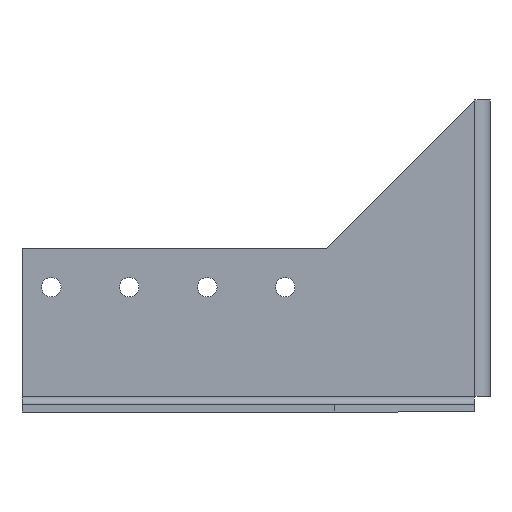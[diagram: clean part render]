
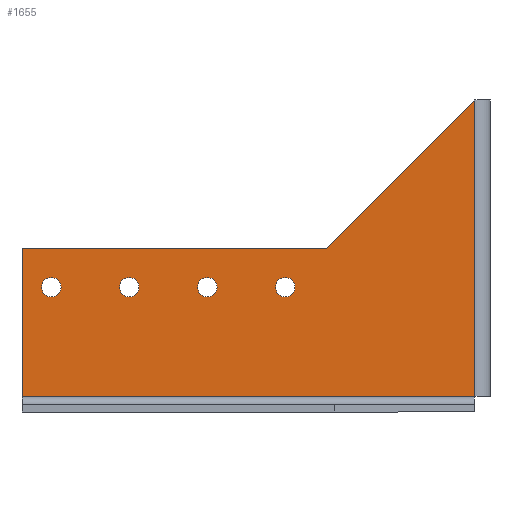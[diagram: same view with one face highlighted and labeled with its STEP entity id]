
A CAD part, left-side view. The second image highlights one B-rep face of the part: STEP entity #1655.
In plain terms, the highlighted planar face has unit normal (-1, 0, 0).
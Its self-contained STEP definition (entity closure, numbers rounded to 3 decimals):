
#81 = VERTEX_POINT ( 'NONE', #911 ) ;
#87 = EDGE_CURVE ( 'NONE', #840, #1079, #1135, .T. ) ;
#91 = CARTESIAN_POINT ( 'NONE',  ( -2., 73., -48. ) ) ;
#93 = VERTEX_POINT ( 'NONE', #1822 ) ;
#140 = CARTESIAN_POINT ( 'NONE',  ( -2., 93., -48. ) ) ;
#162 = CIRCLE ( 'NONE', #1760, 2.5 ) ;
#200 = CIRCLE ( 'NONE', #2806, 2.5 ) ;
#205 = EDGE_CURVE ( 'NONE', #1079, #2985, #1901, .T. ) ;
#218 = CARTESIAN_POINT ( 'NONE',  ( -2., 50.5, -48. ) ) ;
#236 = CARTESIAN_POINT ( 'NONE',  ( -2., 110.5, -48. ) ) ;
#297 = ORIENTED_EDGE ( 'NONE', *, *, #1251, .T. ) ;
#330 = VECTOR ( 'NONE', #3596, 1000. ) ;
#366 = CARTESIAN_POINT ( 'NONE',  ( -2., 53., -48. ) ) ;
#402 = CARTESIAN_POINT ( 'NONE',  ( -2., 90.5, -48. ) ) ;
#442 = EDGE_LOOP ( 'NONE', ( #2429, #2057, #2982, #718, #2160 ) ) ;
#470 = EDGE_CURVE ( 'NONE', #3134, #93, #3116, .T. ) ;
#484 = FACE_BOUND ( 'NONE', #3622, .T. ) ;
#495 = PLANE ( 'NONE',  #2242 ) ;
#510 = DIRECTION ( 'NONE',  ( 0., -1., 0. ) ) ;
#531 = EDGE_CURVE ( 'NONE', #1595, #840, #1659, .T. ) ;
#557 = CARTESIAN_POINT ( 'NONE',  ( -2., 1., 1. ) ) ;
#568 = CARTESIAN_POINT ( 'NONE',  ( -2., 0., -38. ) ) ;
#575 = DIRECTION ( 'NONE',  ( 0., -1., 0. ) ) ;
#653 = LINE ( 'NONE', #1146, #2871 ) ;
#708 = CARTESIAN_POINT ( 'NONE',  ( -2., 2., 0. ) ) ;
#709 = AXIS2_PLACEMENT_3D ( 'NONE', #2932, #1139, #510 ) ;
#718 = ORIENTED_EDGE ( 'NONE', *, *, #531, .F. ) ;
#732 = DIRECTION ( 'NONE',  ( 0., 0., 1. ) ) ;
#745 = EDGE_CURVE ( 'NONE', #3177, #1595, #653, .T. ) ;
#754 = CARTESIAN_POINT ( 'NONE',  ( -2., 108., -48. ) ) ;
#796 = DIRECTION ( 'NONE',  ( 0., -1., 0. ) ) ;
#840 = VERTEX_POINT ( 'NONE', #3843 ) ;
#865 = AXIS2_PLACEMENT_3D ( 'NONE', #402, #1006, #3078 ) ;
#911 = CARTESIAN_POINT ( 'NONE',  ( -2., 68., -48. ) ) ;
#943 = DIRECTION ( 'NONE',  ( 0., -1., 0. ) ) ;
#1006 = DIRECTION ( 'NONE',  ( 1., 0., 0. ) ) ;
#1058 = VECTOR ( 'NONE', #732, 1000. ) ;
#1063 = ORIENTED_EDGE ( 'NONE', *, *, #470, .T. ) ;
#1079 = VERTEX_POINT ( 'NONE', #2415 ) ;
#1128 = DIRECTION ( 'NONE',  ( 1., 0., 0. ) ) ;
#1135 = LINE ( 'NONE', #568, #330 ) ;
#1139 = DIRECTION ( 'NONE',  ( 1., 0., 0. ) ) ;
#1146 = CARTESIAN_POINT ( 'NONE',  ( -2., 118., -76. ) ) ;
#1171 = CIRCLE ( 'NONE', #709, 2.5 ) ;
#1251 = EDGE_CURVE ( 'NONE', #3644, #2123, #2616, .T. ) ;
#1269 = EDGE_CURVE ( 'NONE', #1552, #2171, #162, .T. ) ;
#1287 = CIRCLE ( 'NONE', #2099, 2.5 ) ;
#1299 = CARTESIAN_POINT ( 'NONE',  ( -2., 2., 0. ) ) ;
#1312 = EDGE_LOOP ( 'NONE', ( #3610, #2013 ) ) ;
#1370 = EDGE_CURVE ( 'NONE', #2012, #81, #1171, .T. ) ;
#1431 = CARTESIAN_POINT ( 'NONE',  ( -2., 118., 0. ) ) ;
#1439 = DIRECTION ( 'NONE',  ( 0., 1., 0. ) ) ;
#1549 = DIRECTION ( 'NONE',  ( 0., -1., 0. ) ) ;
#1552 = VERTEX_POINT ( 'NONE', #3328 ) ;
#1595 = VERTEX_POINT ( 'NONE', #3455 ) ;
#1650 = CIRCLE ( 'NONE', #865, 2.5 ) ;
#1655 = ADVANCED_FACE ( 'NONE', ( #484, #3294, #2479, #2719, #3468 ), #495, .T. ) ;
#1659 = LINE ( 'NONE', #1431, #2692 ) ;
#1760 = AXIS2_PLACEMENT_3D ( 'NONE', #3533, #1128, #796 ) ;
#1793 = DIRECTION ( 'NONE',  ( 0., -0.707, 0.707 ) ) ;
#1822 = CARTESIAN_POINT ( 'NONE',  ( -2., 113., -48. ) ) ;
#1835 = CARTESIAN_POINT ( 'NONE',  ( -2., 50.5, -48. ) ) ;
#1901 = LINE ( 'NONE', #557, #2579 ) ;
#1989 = DIRECTION ( 'NONE',  ( 1., 0., 0. ) ) ;
#2007 = DIRECTION ( 'NONE',  ( 1., 0., 0. ) ) ;
#2012 = VERTEX_POINT ( 'NONE', #91 ) ;
#2013 = ORIENTED_EDGE ( 'NONE', *, *, #2374, .T. ) ;
#2018 = EDGE_CURVE ( 'NONE', #3177, #2985, #3508, .T. ) ;
#2057 = ORIENTED_EDGE ( 'NONE', *, *, #205, .F. ) ;
#2085 = EDGE_CURVE ( 'NONE', #93, #3134, #200, .T. ) ;
#2094 = AXIS2_PLACEMENT_3D ( 'NONE', #3356, #3037, #1549 ) ;
#2099 = AXIS2_PLACEMENT_3D ( 'NONE', #1835, #2765, #943 ) ;
#2123 = VERTEX_POINT ( 'NONE', #3184 ) ;
#2160 = ORIENTED_EDGE ( 'NONE', *, *, #745, .F. ) ;
#2171 = VERTEX_POINT ( 'NONE', #140 ) ;
#2242 = AXIS2_PLACEMENT_3D ( 'NONE', #2603, #3759, #2364 ) ;
#2288 = DIRECTION ( 'NONE',  ( 0., -1., 0. ) ) ;
#2311 = ORIENTED_EDGE ( 'NONE', *, *, #2085, .T. ) ;
#2319 = DIRECTION ( 'NONE',  ( 0., -1., 0. ) ) ;
#2320 = DIRECTION ( 'NONE',  ( 0., 0., 1. ) ) ;
#2364 = DIRECTION ( 'NONE',  ( 0., -1., 0. ) ) ;
#2374 = EDGE_CURVE ( 'NONE', #81, #2012, #3771, .T. ) ;
#2388 = EDGE_LOOP ( 'NONE', ( #2311, #1063 ) ) ;
#2415 = CARTESIAN_POINT ( 'NONE',  ( -2., 40., -38. ) ) ;
#2429 = ORIENTED_EDGE ( 'NONE', *, *, #2018, .T. ) ;
#2479 = FACE_BOUND ( 'NONE', #2784, .T. ) ;
#2507 = AXIS2_PLACEMENT_3D ( 'NONE', #218, #2007, #2319 ) ;
#2579 = VECTOR ( 'NONE', #1793, 1000. ) ;
#2603 = CARTESIAN_POINT ( 'NONE',  ( -2., 0., 0. ) ) ;
#2616 = CIRCLE ( 'NONE', #2507, 2.5 ) ;
#2623 = ORIENTED_EDGE ( 'NONE', *, *, #2975, .T. ) ;
#2676 = DIRECTION ( 'NONE',  ( 1., 0., 0. ) ) ;
#2692 = VECTOR ( 'NONE', #2320, 1000. ) ;
#2719 = FACE_BOUND ( 'NONE', #2388, .T. ) ;
#2765 = DIRECTION ( 'NONE',  ( 1., 0., 0. ) ) ;
#2771 = EDGE_CURVE ( 'NONE', #2123, #3644, #1287, .T. ) ;
#2784 = EDGE_LOOP ( 'NONE', ( #2623, #3107 ) ) ;
#2806 = AXIS2_PLACEMENT_3D ( 'NONE', #3458, #1989, #2288 ) ;
#2871 = VECTOR ( 'NONE', #1439, 1000. ) ;
#2921 = CARTESIAN_POINT ( 'NONE',  ( -2., 2., -76. ) ) ;
#2932 = CARTESIAN_POINT ( 'NONE',  ( -2., 70.5, -48. ) ) ;
#2975 = EDGE_CURVE ( 'NONE', #2171, #1552, #1650, .T. ) ;
#2982 = ORIENTED_EDGE ( 'NONE', *, *, #87, .F. ) ;
#2985 = VERTEX_POINT ( 'NONE', #1299 ) ;
#3018 = ORIENTED_EDGE ( 'NONE', *, *, #2771, .T. ) ;
#3037 = DIRECTION ( 'NONE',  ( 1., 0., 0. ) ) ;
#3076 = AXIS2_PLACEMENT_3D ( 'NONE', #236, #2676, #575 ) ;
#3078 = DIRECTION ( 'NONE',  ( 0., -1., 0. ) ) ;
#3107 = ORIENTED_EDGE ( 'NONE', *, *, #1269, .T. ) ;
#3116 = CIRCLE ( 'NONE', #3076, 2.5 ) ;
#3134 = VERTEX_POINT ( 'NONE', #754 ) ;
#3177 = VERTEX_POINT ( 'NONE', #2921 ) ;
#3184 = CARTESIAN_POINT ( 'NONE',  ( -2., 48., -48. ) ) ;
#3294 = FACE_BOUND ( 'NONE', #1312, .T. ) ;
#3328 = CARTESIAN_POINT ( 'NONE',  ( -2., 88., -48. ) ) ;
#3356 = CARTESIAN_POINT ( 'NONE',  ( -2., 70.5, -48. ) ) ;
#3455 = CARTESIAN_POINT ( 'NONE',  ( -2., 118., -76. ) ) ;
#3458 = CARTESIAN_POINT ( 'NONE',  ( -2., 110.5, -48. ) ) ;
#3468 = FACE_OUTER_BOUND ( 'NONE', #442, .T. ) ;
#3508 = LINE ( 'NONE', #708, #1058 ) ;
#3533 = CARTESIAN_POINT ( 'NONE',  ( -2., 90.5, -48. ) ) ;
#3596 = DIRECTION ( 'NONE',  ( 0., -1., 0. ) ) ;
#3610 = ORIENTED_EDGE ( 'NONE', *, *, #1370, .T. ) ;
#3622 = EDGE_LOOP ( 'NONE', ( #297, #3018 ) ) ;
#3644 = VERTEX_POINT ( 'NONE', #366 ) ;
#3759 = DIRECTION ( 'NONE',  ( -1., 0., 0. ) ) ;
#3771 = CIRCLE ( 'NONE', #2094, 2.5 ) ;
#3843 = CARTESIAN_POINT ( 'NONE',  ( -2., 118., -38. ) ) ;
